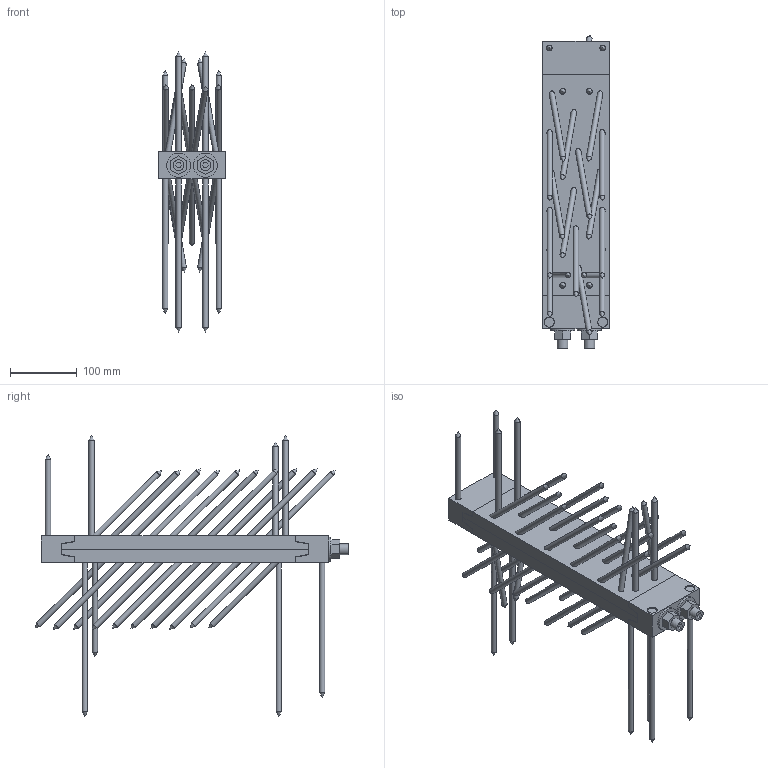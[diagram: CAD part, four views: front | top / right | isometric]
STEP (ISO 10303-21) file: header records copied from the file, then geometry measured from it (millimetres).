
FILE_DESCRIPTION(/* description */ ('Unknown'),/* implementation_level */ '2;1');
FILE_NAME(/* name */ 'MEGANT_430x100x40_Sichtbar',/* time_stamp */ '2020-05-05T17:11:52+02:00',/* author */ ('Unknown'),/* organization */ ('Unknown'),/* preprocessor_version */ 'ST-DEVELOPER v16.7',/* originating_system */ 'DEX',/* authorisation */ $);
FILE_SCHEMA (('AUTOMOTIVE_DESIGN {1 0 10303 214 3 1 1}'));
Length unit declared in the file: millimetre
Products named in the file (14): MEGANT_430x100x40_Sichtbar; Verbinderplatte_370x100x20_NT; Verbinderplatte_370x100x20; SK_Schraube_8x240; SK_Schraube_8x160; Verbinderplatte_370x100x20_HT; Spannbacke_oben_100x50x40_NT; Spannbacke_oben_100x50x40; Spannbacke_unten_100x50x40_HT; Spannbacke_unten_100x50x40; Gewindestange_M16_L460; Beilagscheibe_M16; Mutter_M16
Assembly tree (59 placements, depth 3):
  MEGANT_430x100x40_Sichtbar
    Verbinderplatte_370x100x20_NT
      Verbinderplatte_370x100x20
      SK_Schraube_8x240  x4
      SK_Schraube_8x160  x17
    Verbinderplatte_370x100x20_HT
      Verbinderplatte_370x100x20
      SK_Schraube_8x160  x21
    Spannbacke_oben_100x50x40_NT
      Spannbacke_oben_100x50x40
      SK_Schraube_8x240  x2
    Spannbacke_unten_100x50x40_HT
      Spannbacke_unten_100x50x40
      SK_Schraube_8x160  x2
    Gewindestange_M16_L460  x2
      Gewindestange_M16_L460
      Beilagscheibe_M16
      Mutter_M16
Bounding box: 100 x 469.47 x 420 mm (x, y, z)
Volume: 1954043.7 mm3; surface area: 548784.5 mm2
Topology: 56 solids, 56 shells, 570 faces, 1332 edges, 842 vertices
Faces by surface type: plane 228, cylinder 204, cone 138
Full cylindrical faces by diameter (mm): 8 x46, 8.5 x46, 13.835 x2, 14 x2, 15 x92, 16 x2, 17 x4, 36 x2
Entity records: 6279 total; most frequent: DIRECTION 1046, CARTESIAN_POINT 949, ORIENTED_EDGE 776, AXIS2_PLACEMENT_3D 399, EDGE_CURVE 388, FACE_BOUND 358, EDGE_LOOP 356, VERTEX_POINT 302
